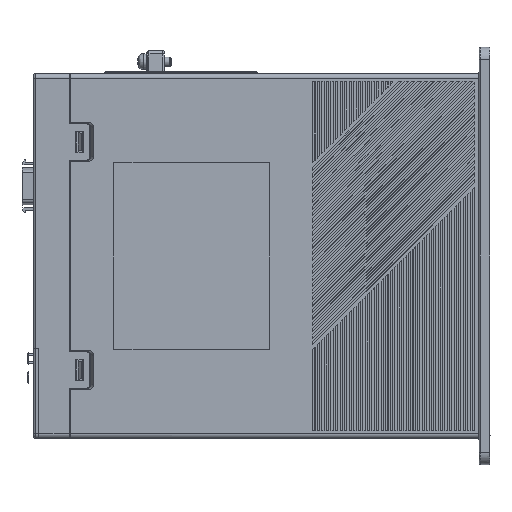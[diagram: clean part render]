
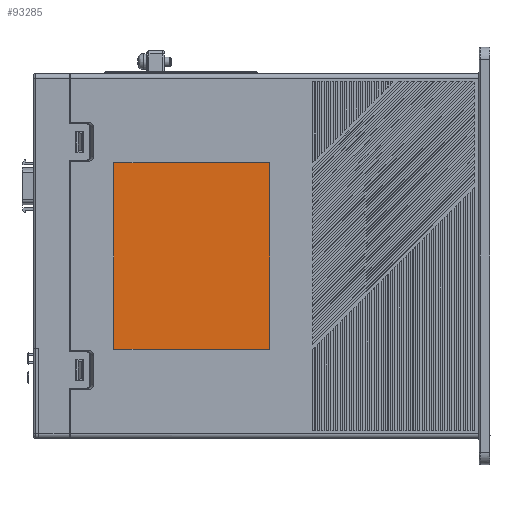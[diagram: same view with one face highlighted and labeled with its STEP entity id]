
A CAD part, left-side view. The second image highlights one B-rep face of the part: STEP entity #93285.
In plain terms, the highlighted planar face has unit normal (-1, 0, 0).
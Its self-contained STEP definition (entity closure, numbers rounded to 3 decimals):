
#82453=CARTESIAN_POINT('',(67.38,221.859,
-132.001));
#82454=DIRECTION('',(1.,0.,0.));
#82455=DIRECTION('',(0.,0.,-1.));
#82456=AXIS2_PLACEMENT_3D('',#82453,#82454,#82455);
#82458=DIRECTION('',(0.,0.,1.));
#82459=VECTOR('',#82458,81.);
#82460=CARTESIAN_POINT('',(67.38,222.359,
-132.001));
#82461=LINE('',#82460,#82459);
#82462=CARTESIAN_POINT('',(67.38,221.859,
-51.001));
#82463=DIRECTION('',(1.,0.,0.));
#82464=DIRECTION('',(0.,1.,0.));
#82465=AXIS2_PLACEMENT_3D('',#82462,#82463,#82464);
#82467=DIRECTION('',(0.,-1.,0.));
#82468=VECTOR('',#82467,67.5);
#82469=CARTESIAN_POINT('',(67.38,221.859,
-50.501));
#82470=LINE('',#82469,#82468);
#82471=CARTESIAN_POINT('',(67.38,154.359,
-51.001));
#82472=DIRECTION('',(1.,0.,0.));
#82473=DIRECTION('',(0.,0.,1.));
#82474=AXIS2_PLACEMENT_3D('',#82471,#82472,#82473);
#82476=DIRECTION('',(0.,0.,-1.));
#82477=VECTOR('',#82476,81.);
#82478=CARTESIAN_POINT('',(67.38,153.859,
-51.001));
#82479=LINE('',#82478,#82477);
#82480=CARTESIAN_POINT('',(67.38,154.359,
-132.001));
#82481=DIRECTION('',(1.,0.,0.));
#82482=DIRECTION('',(0.,-1.,0.));
#82483=AXIS2_PLACEMENT_3D('',#82480,#82481,#82482);
#82485=DIRECTION('',(0.,1.,0.));
#82486=VECTOR('',#82485,67.5);
#82487=CARTESIAN_POINT('',(67.38,154.359,
-132.501));
#82488=LINE('',#82487,#82486);
#90873=CARTESIAN_POINT('',(67.38,222.359,
-132.001));
#90874=CARTESIAN_POINT('',(67.38,221.859,
-132.501));
#90875=VERTEX_POINT('',#90873);
#90876=VERTEX_POINT('',#90874);
#90877=CARTESIAN_POINT('',(67.38,221.859,
-50.501));
#90878=CARTESIAN_POINT('',(67.38,222.359,
-51.001));
#90879=VERTEX_POINT('',#90877);
#90880=VERTEX_POINT('',#90878);
#90881=CARTESIAN_POINT('',(67.38,153.859,
-51.001));
#90882=CARTESIAN_POINT('',(67.38,154.359,
-50.501));
#90883=VERTEX_POINT('',#90881);
#90884=VERTEX_POINT('',#90882);
#90885=CARTESIAN_POINT('',(67.38,154.359,
-132.501));
#90886=CARTESIAN_POINT('',(67.38,153.859,
-132.001));
#90887=VERTEX_POINT('',#90885);
#90888=VERTEX_POINT('',#90886);
#93262=CARTESIAN_POINT('',(67.38,62.359,
-91.501));
#93263=DIRECTION('',(-1.,0.,0.));
#93264=DIRECTION('',(0.,0.,1.));
#93265=AXIS2_PLACEMENT_3D('',#93262,#93263,#93264);
#93266=PLANE('',#93265);
#93268=ORIENTED_EDGE('',*,*,#93267,.T.);
#93270=ORIENTED_EDGE('',*,*,#93269,.T.);
#93272=ORIENTED_EDGE('',*,*,#93271,.T.);
#93274=ORIENTED_EDGE('',*,*,#93273,.T.);
#93276=ORIENTED_EDGE('',*,*,#93275,.T.);
#93278=ORIENTED_EDGE('',*,*,#93277,.T.);
#93280=ORIENTED_EDGE('',*,*,#93279,.T.);
#93282=ORIENTED_EDGE('',*,*,#93281,.T.);
#93283=EDGE_LOOP('',(#93268,#93270,#93272,#93274,#93276,#93278,#93280,#93282));
#93284=FACE_OUTER_BOUND('',#93283,.F.);
#82457=CIRCLE('',#82456,0.5);
#82466=CIRCLE('',#82465,0.5);
#82475=CIRCLE('',#82474,0.5);
#82484=CIRCLE('',#82483,0.5);
#93267=EDGE_CURVE('',#90876,#90875,#82457,.T.);
#93269=EDGE_CURVE('',#90875,#90880,#82461,.T.);
#93271=EDGE_CURVE('',#90880,#90879,#82466,.T.);
#93273=EDGE_CURVE('',#90879,#90884,#82470,.T.);
#93275=EDGE_CURVE('',#90884,#90883,#82475,.T.);
#93277=EDGE_CURVE('',#90883,#90888,#82479,.T.);
#93279=EDGE_CURVE('',#90888,#90887,#82484,.T.);
#93281=EDGE_CURVE('',#90887,#90876,#82488,.T.);
#93285=ADVANCED_FACE('',(#93284),#93266,.T.);
